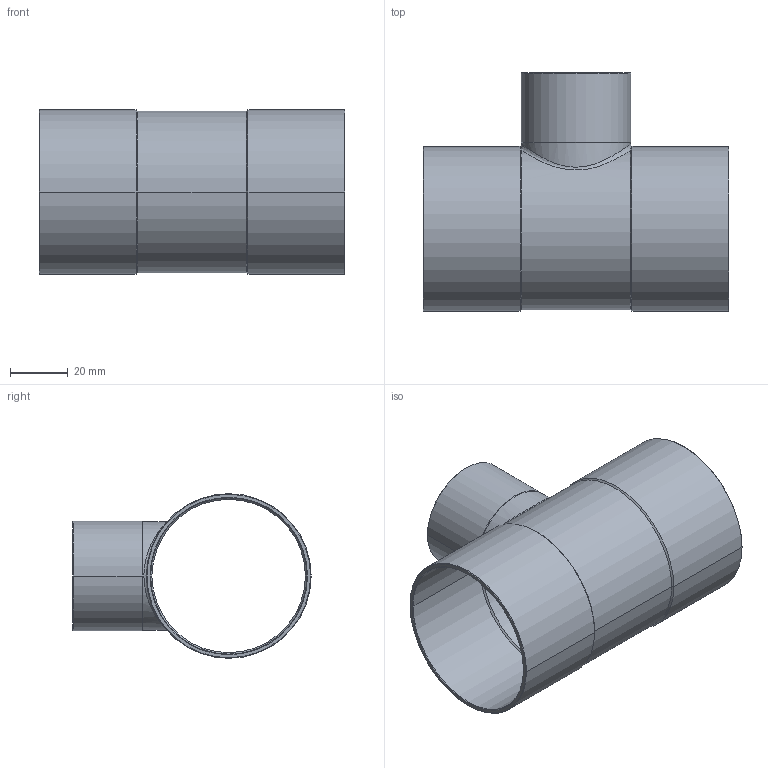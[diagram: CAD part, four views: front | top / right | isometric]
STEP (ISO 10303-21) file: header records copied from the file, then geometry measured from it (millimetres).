
FILE_DESCRIPTION((''),'2;1');
FILE_NAME('G:\Technics\CAD\Bauteile\15130\15130543554.stp','2005-11-02T10:19:56',('boden'),(''),'Autodesk Inventor 8','Autodesk Inventor 8','');
FILE_SCHEMA(('AUTOMOTIVE_DESIGN { 1 0 10303 214 1 1 1 1 }'));
Length unit declared in the file: millimetre
Products named in the file (1): 15130543554
Bounding box: 106 x 82.53 x 57.05 mm (x, y, z)
Volume: 29970.8 mm3; surface area: 42061.6 mm2
Topology: 1 solids, 1 shells, 49 faces, 112 edges, 64 vertices
Faces by surface type: cone 24, cylinder 20, plane 3, bspline 2
Entity records: 1858 total; most frequent: CARTESIAN_POINT 737, DIRECTION 238, ORIENTED_EDGE 224, EDGE_CURVE 112, AXIS2_PLACEMENT_3D 98, VERTEX_POINT 64, EDGE_LOOP 52, CIRCLE 50
